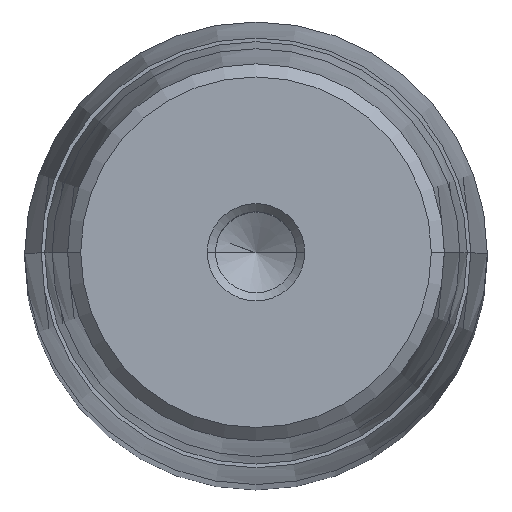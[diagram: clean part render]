
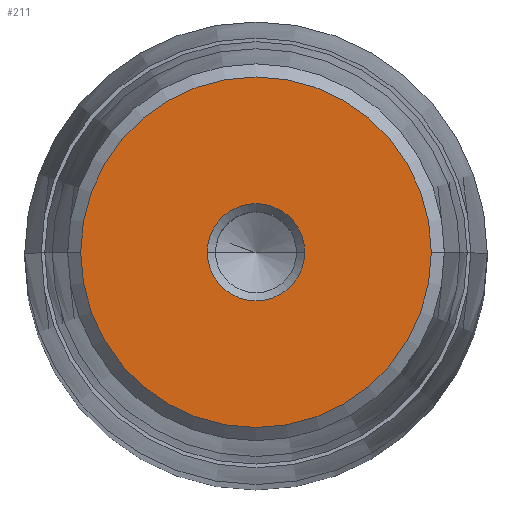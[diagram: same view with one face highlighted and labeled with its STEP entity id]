
A CAD part, top view. The second image highlights one B-rep face of the part: STEP entity #211.
In plain terms, the highlighted planar face has unit normal (0, 0, 1).
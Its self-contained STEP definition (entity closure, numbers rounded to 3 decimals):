
#136=CARTESIAN_POINT('Axis2P3D Location',(0.,0.,48.)) ;
#140=CARTESIAN_POINT('Vertex',(-4.,0.,48.)) ;
#142=CARTESIAN_POINT('Vertex',(4.,0.,48.)) ;
#179=CARTESIAN_POINT('Axis2P3D Location',(0.,4.,48.)) ;
#184=CARTESIAN_POINT('Axis2P3D Location',(0.,0.,48.)) ;
#188=CARTESIAN_POINT('Vertex',(-14.4,0.,48.)) ;
#190=CARTESIAN_POINT('Vertex',(14.4,0.,48.)) ;
#193=CARTESIAN_POINT('Axis2P3D Location',(0.,0.,48.)) ;
#202=CARTESIAN_POINT('Axis2P3D Location',(0.,0.,48.)) ;
#137=DIRECTION('Axis2P3D Direction',(0.,-0.,1.)) ;
#180=DIRECTION('Axis2P3D Direction',(0.,0.,-1.)) ;
#181=DIRECTION('Axis2P3D XDirection',(-1.,0.,0.)) ;
#185=DIRECTION('Axis2P3D Direction',(0.,0.,-1.)) ;
#194=DIRECTION('Axis2P3D Direction',(0.,0.,-1.)) ;
#203=DIRECTION('Axis2P3D Direction',(0.,0.,-1.)) ;
#138=AXIS2_PLACEMENT_3D('Circle Axis2P3D',#136,#137,$) ;
#182=AXIS2_PLACEMENT_3D('Plane Axis2P3D',#179,#180,#181) ;
#186=AXIS2_PLACEMENT_3D('Circle Axis2P3D',#184,#185,$) ;
#195=AXIS2_PLACEMENT_3D('Circle Axis2P3D',#193,#194,$) ;
#204=AXIS2_PLACEMENT_3D('Circle Axis2P3D',#202,#203,$) ;
#199=ORIENTED_EDGE('',*,*,#192,.F.) ;
#200=ORIENTED_EDGE('',*,*,#197,.F.) ;
#208=ORIENTED_EDGE('',*,*,#206,.T.) ;
#209=ORIENTED_EDGE('',*,*,#144,.T.) ;
#210=FACE_BOUND('',#207,.T.) ;
#211=ADVANCED_FACE('722-38x280x313',(#201,#210),#183,.F.) ;
#139=CIRCLE('generated circle',#138,4.) ;
#187=CIRCLE('generated circle',#186,14.4) ;
#196=CIRCLE('generated circle',#195,14.4) ;
#205=CIRCLE('generated circle',#204,4.) ;
#144=EDGE_CURVE('',#141,#143,#139,.F.) ;
#192=EDGE_CURVE('',#189,#191,#187,.T.) ;
#197=EDGE_CURVE('',#191,#189,#196,.T.) ;
#206=EDGE_CURVE('',#143,#141,#205,.T.) ;
#198=EDGE_LOOP('',(#199,#200)) ;
#207=EDGE_LOOP('',(#208,#209)) ;
#201=FACE_OUTER_BOUND('',#198,.T.) ;
#183=PLANE('Plane',#182) ;
#141=VERTEX_POINT('',#140) ;
#143=VERTEX_POINT('',#142) ;
#189=VERTEX_POINT('',#188) ;
#191=VERTEX_POINT('',#190) ;
